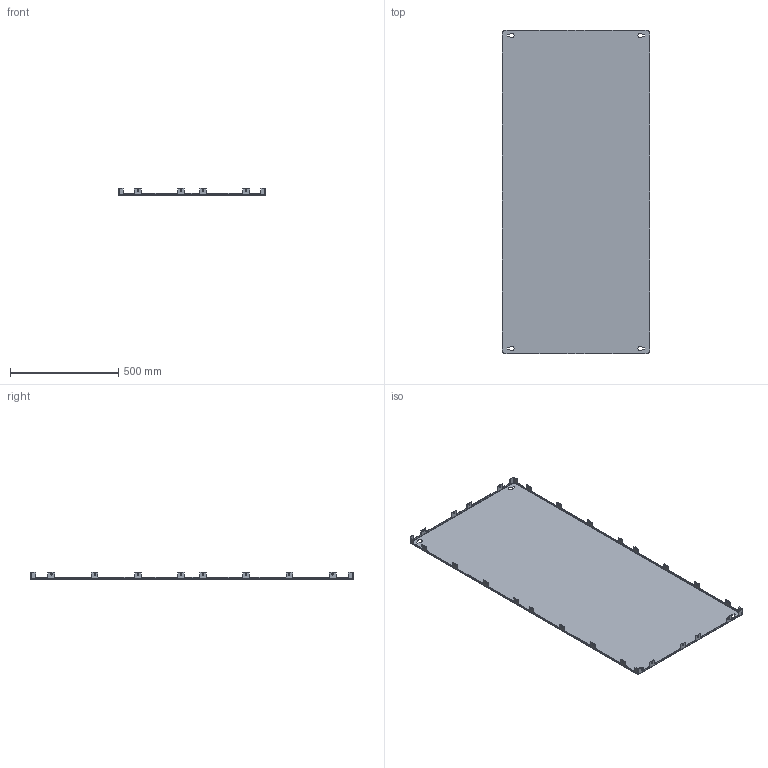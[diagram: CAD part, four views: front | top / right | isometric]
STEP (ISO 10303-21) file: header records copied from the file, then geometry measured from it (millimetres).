
FILE_DESCRIPTION (( 'STEP AP203' ), '1' );
FILE_NAME ('R5LPS1608.STEP', '2021-12-17T12:52:31', ( '' ), ( '' ), 'SwSTEP 2.0', 'SolidWorks 2020', '' );
FILE_SCHEMA (( 'CONFIG_CONTROL_DESIGN' ));
Length unit declared in the file: millimetre
Products named in the file (1): R5LPS1608
Bounding box: 684 x 1498 x 32.5 mm (x, y, z)
Volume: 2146453.6 mm3; surface area: 2159912.1 mm2
Topology: 1 solids, 1 shells, 432 faces, 1258 edges, 828 vertices
Faces by surface type: plane 274, cylinder 158
Entity records: 14431 total; most frequent: CARTESIAN_POINT 2519, ORIENTED_EDGE 2516, DIRECTION 2440, EDGE_CURVE 1258, VECTOR 942, LINE 942, VERTEX_POINT 828, AXIS2_PLACEMENT_3D 749
